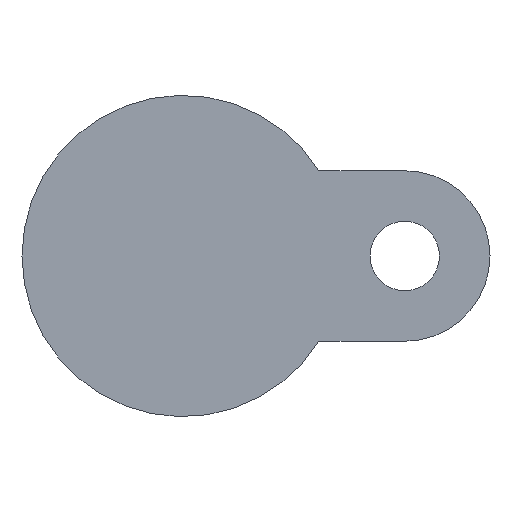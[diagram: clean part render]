
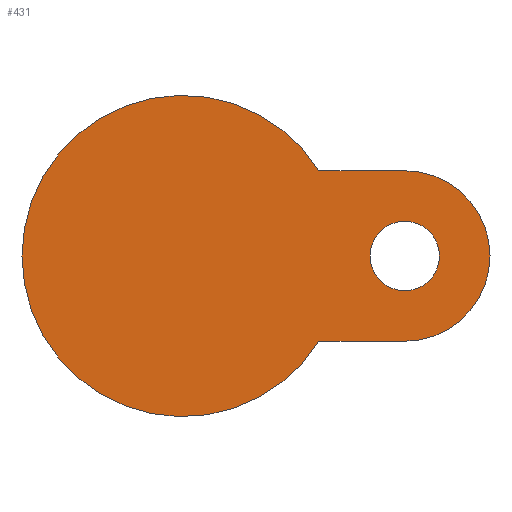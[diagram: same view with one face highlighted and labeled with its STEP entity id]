
A CAD part, front view. The second image highlights one B-rep face of the part: STEP entity #431.
In plain terms, the highlighted planar face has unit normal (0, -1, 0).
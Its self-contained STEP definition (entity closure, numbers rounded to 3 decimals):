
#21 = VECTOR ( 'NONE', #327, 1000. ) ;
#106 = FACE_BOUND ( 'NONE', #1476, .T. ) ;
#112 = AXIS2_PLACEMENT_3D ( 'NONE', #574, #481, #1431 ) ;
#124 = VECTOR ( 'NONE', #200, 1000. ) ;
#162 = ORIENTED_EDGE ( 'NONE', *, *, #504, .T. ) ;
#165 = DIRECTION ( 'NONE',  ( 1., 0., 0. ) ) ;
#200 = DIRECTION ( 'NONE',  ( 1., 0., 0. ) ) ;
#203 = ORIENTED_EDGE ( 'NONE', *, *, #443, .F. ) ;
#237 = CARTESIAN_POINT ( 'NONE',  ( 64.75, -23., 0. ) ) ;
#239 = DIRECTION ( 'NONE',  ( -1., 0., 0. ) ) ;
#244 = CARTESIAN_POINT ( 'NONE',  ( 56., -23., 21.5 ) ) ;
#285 = DIRECTION ( 'NONE',  ( 0., -1., 0. ) ) ;
#312 = ORIENTED_EDGE ( 'NONE', *, *, #1032, .F. ) ;
#327 = DIRECTION ( 'NONE',  ( -1., 0., 0. ) ) ;
#398 = CIRCLE ( 'NONE', #1036, 21.5 ) ;
#431 = ADVANCED_FACE ( 'NONE', ( #106, #722 ), #1417, .T. ) ;
#443 = EDGE_CURVE ( 'NONE', #620, #1145, #398, .T. ) ;
#478 = DIRECTION ( 'NONE',  ( -1., 0., 0. ) ) ;
#481 = DIRECTION ( 'NONE',  ( 0., -1., 0. ) ) ;
#492 = CARTESIAN_POINT ( 'NONE',  ( 56., -23., -21.5 ) ) ;
#504 = EDGE_CURVE ( 'NONE', #1369, #530, #759, .T. ) ;
#530 = VERTEX_POINT ( 'NONE', #1124 ) ;
#556 = CIRCLE ( 'NONE', #585, 40.5 ) ;
#574 = CARTESIAN_POINT ( 'NONE',  ( 40.5, -23., 0. ) ) ;
#585 = AXIS2_PLACEMENT_3D ( 'NONE', #1356, #285, #165 ) ;
#594 = CARTESIAN_POINT ( 'NONE',  ( 56., -23., 0. ) ) ;
#597 = CARTESIAN_POINT ( 'NONE',  ( 56., -23., 0. ) ) ;
#620 = VERTEX_POINT ( 'NONE', #244 ) ;
#679 = EDGE_LOOP ( 'NONE', ( #1381, #1490, #203, #312 ) ) ;
#703 = CARTESIAN_POINT ( 'NONE',  ( 30.5, -23., 21.5 ) ) ;
#710 = CARTESIAN_POINT ( 'NONE',  ( 56., -23., 0. ) ) ;
#722 = FACE_OUTER_BOUND ( 'NONE', #679, .T. ) ;
#759 = CIRCLE ( 'NONE', #933, 8.75 ) ;
#774 = VERTEX_POINT ( 'NONE', #800 ) ;
#800 = CARTESIAN_POINT ( 'NONE',  ( 34.322, -23., 21.5 ) ) ;
#835 = AXIS2_PLACEMENT_3D ( 'NONE', #594, #1095, #478 ) ;
#844 = DIRECTION ( 'NONE',  ( 0., 1., 0. ) ) ;
#933 = AXIS2_PLACEMENT_3D ( 'NONE', #597, #844, #239 ) ;
#939 = CARTESIAN_POINT ( 'NONE',  ( 30.5, -23., -21.5 ) ) ;
#959 = EDGE_CURVE ( 'NONE', #1145, #1452, #1400, .T. ) ;
#968 = DIRECTION ( 'NONE',  ( 0., 1., 0. ) ) ;
#983 = CIRCLE ( 'NONE', #835, 8.75 ) ;
#1032 = EDGE_CURVE ( 'NONE', #774, #620, #1067, .T. ) ;
#1036 = AXIS2_PLACEMENT_3D ( 'NONE', #710, #968, #1189 ) ;
#1067 = LINE ( 'NONE', #703, #124 ) ;
#1085 = CARTESIAN_POINT ( 'NONE',  ( 34.322, -23., -21.5 ) ) ;
#1095 = DIRECTION ( 'NONE',  ( 0., 1., 0. ) ) ;
#1107 = ORIENTED_EDGE ( 'NONE', *, *, #1121, .T. ) ;
#1121 = EDGE_CURVE ( 'NONE', #530, #1369, #983, .T. ) ;
#1124 = CARTESIAN_POINT ( 'NONE',  ( 47.25, -23., 0. ) ) ;
#1145 = VERTEX_POINT ( 'NONE', #492 ) ;
#1189 = DIRECTION ( 'NONE',  ( 1., 0., 0. ) ) ;
#1196 = EDGE_CURVE ( 'NONE', #774, #1452, #556, .T. ) ;
#1356 = CARTESIAN_POINT ( 'NONE',  ( 0., -23., 0. ) ) ;
#1369 = VERTEX_POINT ( 'NONE', #237 ) ;
#1381 = ORIENTED_EDGE ( 'NONE', *, *, #1196, .T. ) ;
#1400 = LINE ( 'NONE', #939, #21 ) ;
#1417 = PLANE ( 'NONE',  #112 ) ;
#1431 = DIRECTION ( 'NONE',  ( 1., 0., 0. ) ) ;
#1452 = VERTEX_POINT ( 'NONE', #1085 ) ;
#1476 = EDGE_LOOP ( 'NONE', ( #1107, #162 ) ) ;
#1490 = ORIENTED_EDGE ( 'NONE', *, *, #959, .F. ) ;
